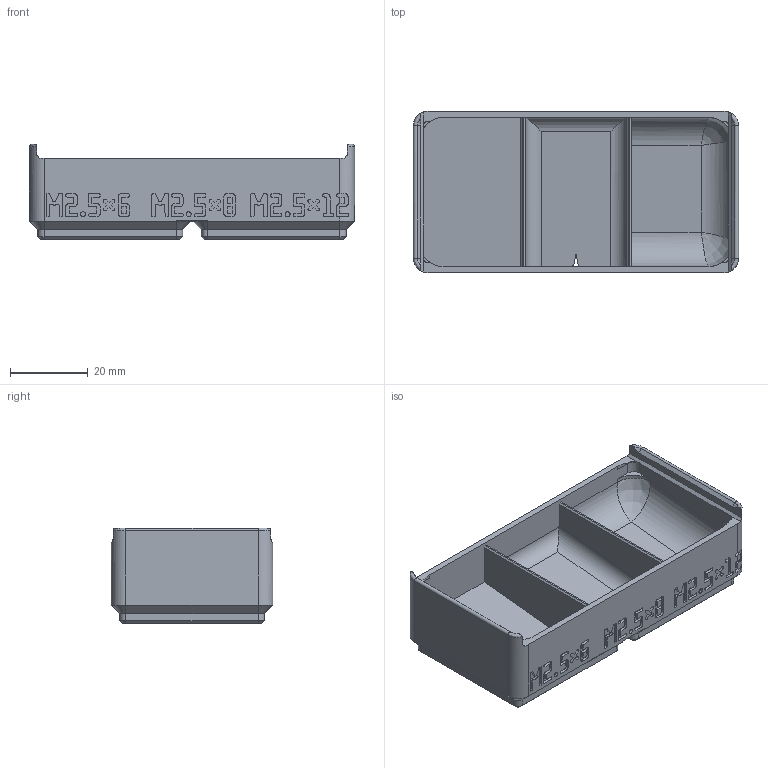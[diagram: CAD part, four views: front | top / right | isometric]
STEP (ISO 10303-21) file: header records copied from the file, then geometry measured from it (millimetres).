
FILE_DESCRIPTION(('Open CASCADE Model'),'2;1');
FILE_NAME('Open CASCADE Shape Model','2026-11-03T17:57:34',('Author'),( 'Open CASCADE'),'Open CASCADE STEP processor 8.0','build123d', 'Unknown');
FILE_SCHEMA(('AUTOMOTIVE_DESIGN { 1 0 10303 214 1 1 1 1 }'));
Products named in the file (1): COMPOUND
Bounding box: 83.5 x 41.5 x 24.55 mm (x, y, z)
Volume: 29597.8 mm3; surface area: 17330.1 mm2
Topology: 1 solids, 1 shells, 1965 faces, 5756 edges, 3810 vertices
Faces by surface type: plane 1894, cylinder 41, cone 24, bspline 6
Entity records: 137333 total; most frequent: CARTESIAN_POINT 29482, DIRECTION 17502, LINE 13193, VECTOR 13193, ORIENTED_EDGE 11508, PCURVE 11508, DEFINITIONAL_REPRESENTATION 11508, EDGE_CURVE 5754
